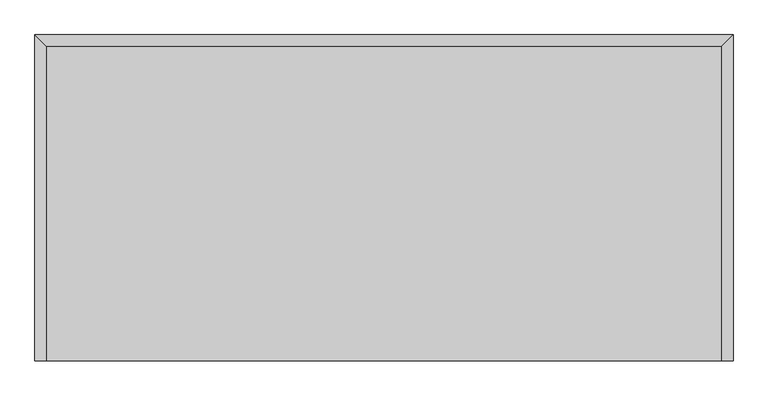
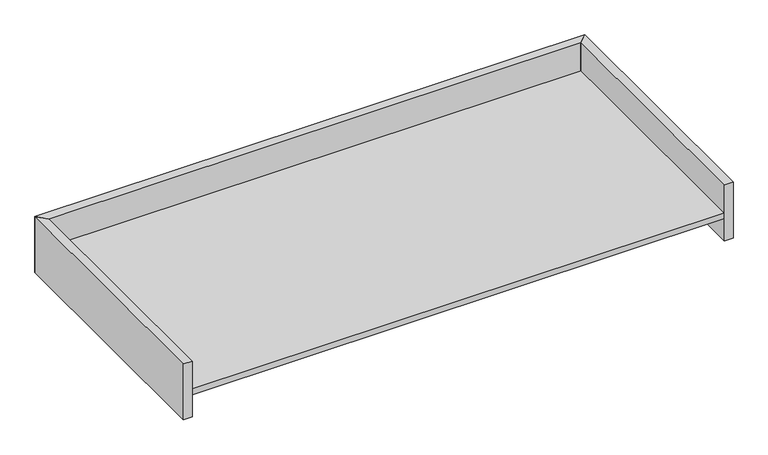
"""IFC4 building model written with IfcOpenShell, lengths in millimetres: proxy geometry, FOUNDATION^OPEN OFFICE 1_43.5x93 FRONT TRANSACTION-PARTS SOLID."""

from ifc_helpers import new_model, si_unit, frame, origin, origin_with_axes, place, context, project, spatial, polyline, outline, extrude, source, transform, mapped, element, save


def generic_models_19edf8a9(model_context):
    return source(origin(), model_context, "Body", "SweptSolid", [
        extrude(outline(polyline([(2324.1, 1066.8), (2362.2, 1104.9), (2362.2, 0.0), (2324.1, 0.0), (2324.1, 1066.8)])), origin_with_axes(), (0.0, 0.0, 1.0), 254.0),
        extrude(outline(polyline([(0.0, 1104.9), (2362.2, 1104.9), (2324.1, 1066.8), (38.1, 1066.8), (0.0, 1104.9)])), origin_with_axes(), (0.0, 0.0, 1.0), 254.0),
        extrude(outline(polyline([(38.1, 0.0), (0.0, 0.0), (0.0, 1104.9), (38.1, 1066.8), (38.1, 0.0)])), origin_with_axes(), (0.0, 0.0, 1.0), 254.0),
        extrude(outline(polyline([(2324.1, 1066.8), (2324.1, 0.0), (38.1, 0.0), (38.1, 1066.8), (2324.1, 1066.8)])), frame((0.0, 0.0, 101.6), z_axis=(0.0, 0.0, 1.0), x_axis=(1.0, 0.0, 0.0)), (0.0, 0.0, 1.0), 25.4),
    ])


if __name__ == "__main__":
    model = new_model("IFC4")
    model_context = context("Model", 3, world=origin())
    ifc_project = project(units=[si_unit("LENGTHUNIT", "METRE", prefix="MILLI")], contexts=[model_context])
    site = spatial("IfcSite", under=ifc_project)
    building = spatial("IfcBuilding", under=site)
    placement = place(None, origin())
    generic_models_shape = generic_models_19edf8a9(model_context)
    element("IfcBuildingElementProxy", 1, Name="FOUNDATION^OPEN OFFICE 1_43.5x93 FRONT TRANSACTION-PARTS SOLID", ObjectType="FOUNDATION^OPEN OFFICE 1_43.5x93 FRONT TRANSACTION-PARTS SOLID", at=placement, inside=building, context=model_context, shape_type="MappedRepresentation", body=[
        mapped(generic_models_shape, transform((0.0, 0.0, 0.0), x_axis=(1.0, 0.0, 0.0), y_axis=(0.0, 1.0, 0.0), z_axis=(0.0, 0.0, 1.0))),
    ])
    save(model, "model.ifc")
